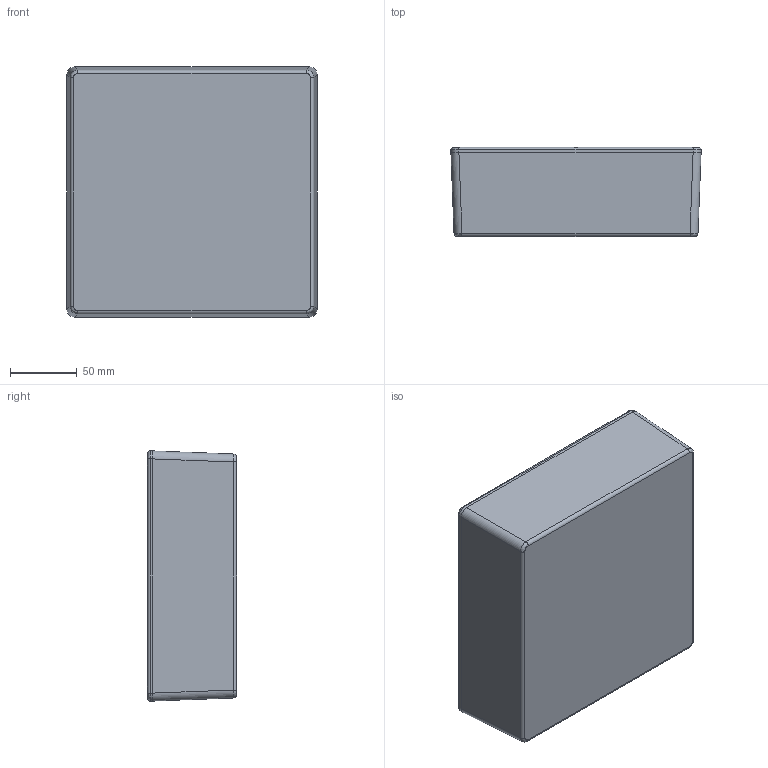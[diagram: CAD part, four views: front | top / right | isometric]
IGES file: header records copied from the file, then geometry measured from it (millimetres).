
Global section: file name: 1590F.iam; native system: Autodesk Inventor 2014; preprocessor: unknown; author: mbeerman; date: 20140728.134628; units: millimetre
Bounding box: 188 x 67 x 188 mm (x, y, z)
Volume: 304446.9 mm3; surface area: 235968 mm2
Topology: 10 solids, 10 shells, 721 faces, 1915 edges, 1250 vertices
Faces by surface type: plane 334, bspline 183, revolution 140, cone 40, cylinder 24
Full cylindrical faces by diameter (mm): 3.378 x8
